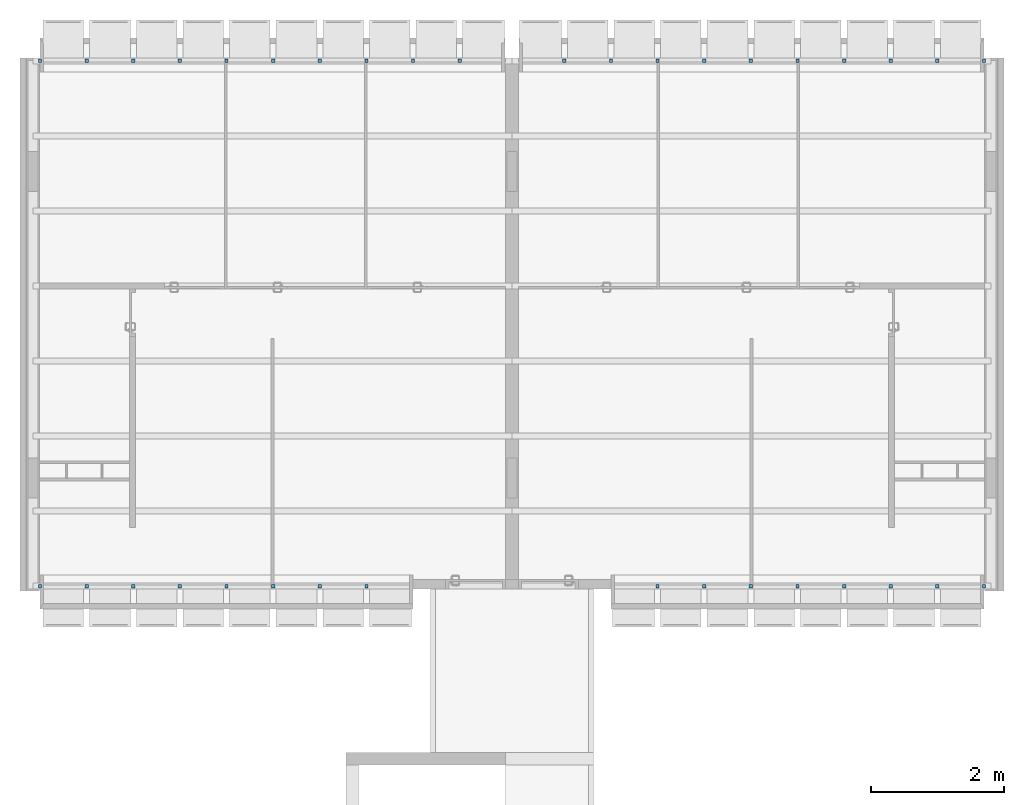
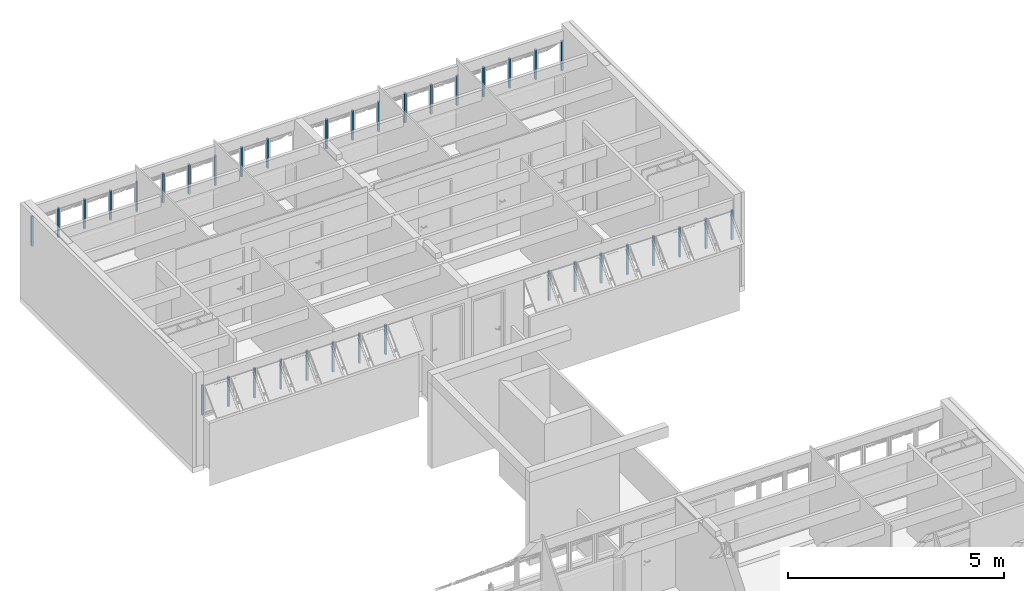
# One storey, part 3 of 40: 36 members, 4 elements without a shape of their own.
"""IFC4 building model written with IfcOpenShell, lengths in millimetres."""

from ifc_helpers import new_model, entity, si_unit, converted_unit, derived_unit, direction, frame, origin_with_axes, place, context, subcontext, project, spatial, line, indexed_curve, outline, extrude, material, type_object, element, aggregate, save


model = new_model("IFC4")

# Units and contexts
model_context = context("Model", 3, precision=0.01, world=origin_with_axes(), true_north=direction((0.0, 1.0)))
body_context = subcontext(model_context, "Body", "Model", "MODEL_VIEW")
ifc_project = project(units=[si_unit("LENGTHUNIT", "METRE", prefix="MILLI"), si_unit("AREAUNIT", "SQUARE_METRE"), si_unit("VOLUMEUNIT", "CUBIC_METRE"), converted_unit("PLANEANGLEUNIT", "DEGREE", entity("IfcPlaneAngleMeasure", 0.0174532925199), si_unit("PLANEANGLEUNIT", "RADIAN"), dimensions=[0, 0, 0, 0, 0, 0, 0]), converted_unit("TIMEUNIT", "Year", entity("IfcTimeMeasure", 31556926.0), si_unit("TIMEUNIT", "SECOND"), dimensions=[0, 0, 1, 0, 0, 0, 0]), si_unit("MASSUNIT", "GRAM", prefix="KILO"), si_unit("THERMODYNAMICTEMPERATUREUNIT", "DEGREE_CELSIUS"), si_unit("LUMINOUSINTENSITYUNIT", "LUMEN"), si_unit("ENERGYUNIT", "JOULE", prefix="MEGA"), derived_unit("THERMALCONDUCTANCEUNIT", [(si_unit("POWERUNIT", "WATT"), 1), (si_unit("LENGTHUNIT", "METRE"), -1), (si_unit("THERMODYNAMICTEMPERATUREUNIT", "KELVIN"), -1)]), derived_unit("SPECIFICHEATCAPACITYUNIT", [(si_unit("ENERGYUNIT", "JOULE"), 1), (si_unit("MASSUNIT", "GRAM", prefix="KILO"), -1), (si_unit("THERMODYNAMICTEMPERATUREUNIT", "KELVIN"), -1)]), derived_unit("MASSDENSITYUNIT", [(si_unit("MASSUNIT", "GRAM", prefix="KILO"), 1), (si_unit("VOLUMEUNIT", "CUBIC_METRE"), -1)])], contexts=[model_context])

# Site, building, storey
site_placement = place(None, origin_with_axes())
site = spatial("IfcSite", under=ifc_project, at=site_placement, Name="Local", CompositionType="ELEMENT")
building_placement = place(site_placement, origin_with_axes())
building = spatial("IfcBuilding", under=site, at=building_placement, Name="Construção", CompositionType="ELEMENT")
storey_placement = place(building_placement, frame((0.0, 0.0, 5300.0), z_axis=(0.0, 0.0, 1.0), x_axis=(1.0, 0.0, 0.0)))
storey = spatial("IfcBuildingStorey", under=building, at=storey_placement, Name="Terceiro Pavimento", CompositionType="ELEMENT", Elevation=5300.0)

# Window, members
window_type = type_object("IfcWindowType", Name="Tipo de Parede Cortina", PartitioningType="NOTDEFINED", PredefinedType="NOTDEFINED")
window_1_placement = place(storey_placement, frame((2750.0, 17910.0, 1355.00007107), z_axis=(0.0, 0.0, 1.0), x_axis=(1.0, 0.0, 0.0)))
window_1 = element("IfcWindow", 1, at=window_1_placement, inside=storey, type_object=window_type, Name="APTO11-JANELA-000", PredefinedType="NOTDEFINED")
ifc_material = material(Name="Alumínio")
member_type = type_object("IfcMemberType", Name="Montante 50 x 50", PredefinedType="MULLION")
member_1_placement = place(window_1_placement, frame((1050.0, 0.0, 0.0), z_axis=(0.0, 0.0, 1.0), x_axis=(-1.0, 0.0, 0.0)))
member_1 = element("IfcMember", 2, at=member_1_placement, type_object=member_type, material=ifc_material, Name="APTO11-PC-Est-Mnt-430", PredefinedType="MULLION", context=body_context, shape_type="SweptSolid", body=[
    extrude(outline(indexed_curve([(-25.0, 50.0), (-25.0, 0.0), (25.0, 0.0), (25.0, 50.0)], segments=[line(1, 2, 3, 4, 1)])), frame((0.0, 0.0, 0.0), z_axis=(0.0, 0.0, 1.0), x_axis=(-1.0, 0.0, 0.0)), (0.0, 0.0, 1.0), 844.999891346),
])
member_2_placement = place(window_1_placement, frame((1750.0, 0.0, 0.0), z_axis=(0.0, 0.0, 1.0), x_axis=(-1.0, 0.0, 0.0)))
member_2 = element("IfcMember", 3, at=member_2_placement, type_object=member_type, material=ifc_material, Name="APTO11-PC-Est-Mnt-485", PredefinedType="MULLION", context=body_context, shape_type="SweptSolid", body=[
    extrude(outline(indexed_curve([(-25.0, 50.0), (-25.0, 0.0), (25.0, 0.0), (25.0, 50.0)], segments=[line(1, 2, 3, 4, 1)])), frame((0.0, 0.0, 0.0), z_axis=(0.0, 0.0, 1.0), x_axis=(-1.0, 0.0, 0.0)), (0.0, 0.0, 1.0), 844.999891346),
])
member_3_placement = place(window_1_placement, frame((2450.0, 0.0, 0.0), z_axis=(0.0, 0.0, 1.0), x_axis=(-1.0, 0.0, 0.0)))
member_3 = element("IfcMember", 4, at=member_3_placement, type_object=member_type, material=ifc_material, Name="APTO11-PC-Est-Mnt-486", PredefinedType="MULLION", context=body_context, shape_type="SweptSolid", body=[
    extrude(outline(indexed_curve([(-25.0, 50.0), (-25.0, 0.0), (25.0, 0.0), (25.0, 50.0)], segments=[line(1, 2, 3, 4, 1)])), frame((0.0, 0.0, 0.0), z_axis=(0.0, 0.0, 1.0), x_axis=(-1.0, 0.0, 0.0)), (0.0, 0.0, 1.0), 844.999891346),
])
member_4_placement = place(window_1_placement, frame((-350.0, 0.0, 0.0), z_axis=(0.0, 0.0, 1.0), x_axis=(-1.0, 0.0, 0.0)))
member_4 = element("IfcMember", 5, at=member_4_placement, type_object=member_type, material=ifc_material, Name="APTO11-PC-Est-Mnt-428", PredefinedType="MULLION", context=body_context, shape_type="SweptSolid", body=[
    extrude(outline(indexed_curve([(-25.0, 50.0), (-25.0, 0.0), (25.0, 0.0), (25.0, 50.0)], segments=[line(1, 2, 3, 4, 1)])), frame((0.0, 0.0, 0.0), z_axis=(0.0, 0.0, 1.0), x_axis=(-1.0, 0.0, 0.0)), (0.0, 0.0, 1.0), 844.999891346),
])
member_5_placement = place(window_1_placement, frame((-2450.0, 0.0, 0.0), z_axis=(0.0, 0.0, 1.0), x_axis=(-1.0, 0.0, 0.0)))
member_5 = element("IfcMember", 6, at=member_5_placement, type_object=member_type, material=ifc_material, Name="APTO11-PC-Est-Mnt-560", PredefinedType="MULLION", context=body_context, shape_type="SweptSolid", body=[
    extrude(outline(indexed_curve([(-25.0, 50.0), (-25.0, 0.0), (25.0, 0.0), (25.0, 50.0)], segments=[line(1, 2, 3, 4, 1)])), frame((0.0, 0.0, 0.0), z_axis=(0.0, 0.0, 1.0), x_axis=(-1.0, 0.0, 0.0)), (0.0, 0.0, 1.0), 844.999891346),
])
member_6_placement = place(window_1_placement, frame((350.0, 0.0, 0.0), z_axis=(0.0, 0.0, 1.0), x_axis=(-1.0, 0.0, 0.0)))
member_6 = element("IfcMember", 7, at=member_6_placement, type_object=member_type, material=ifc_material, Name="APTO11-PC-Est-Mnt-429", PredefinedType="MULLION", context=body_context, shape_type="SweptSolid", body=[
    extrude(outline(indexed_curve([(-25.0, 50.0), (-25.0, 0.0), (25.0, 0.0), (25.0, 50.0)], segments=[line(1, 2, 3, 4, 1)])), frame((0.0, 0.0, 0.0), z_axis=(0.0, 0.0, 1.0), x_axis=(-1.0, 0.0, 0.0)), (0.0, 0.0, 1.0), 844.999891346),
])
member_7_placement = place(window_1_placement, frame((-1050.0, 0.0, 0.0), z_axis=(0.0, 0.0, 1.0), x_axis=(-1.0, 0.0, 0.0)))
member_7 = element("IfcMember", 8, at=member_7_placement, type_object=member_type, material=ifc_material, Name="APTO11-PC-Est-Mnt-427", PredefinedType="MULLION", context=body_context, shape_type="SweptSolid", body=[
    extrude(outline(indexed_curve([(-25.0, 50.0), (-25.0, 0.0), (25.0, 0.0), (25.0, 50.0)], segments=[line(1, 2, 3, 4, 1)])), frame((0.0, 0.0, 0.0), z_axis=(0.0, 0.0, 1.0), x_axis=(-1.0, 0.0, 0.0)), (0.0, 0.0, 1.0), 844.999891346),
])
member_8_placement = place(window_1_placement, frame((-1750.0, 0.0, 0.0), z_axis=(0.0, 0.0, 1.0), x_axis=(-1.0, 0.0, 0.0)))
member_8 = element("IfcMember", 9, at=member_8_placement, type_object=member_type, material=ifc_material, Name="APTO11-PC-Est-Mnt-426", PredefinedType="MULLION", context=body_context, shape_type="SweptSolid", body=[
    extrude(outline(indexed_curve([(-25.0, 50.0), (-25.0, 0.0), (25.0, 0.0), (25.0, 50.0)], segments=[line(1, 2, 3, 4, 1)])), frame((0.0, 0.0, 0.0), z_axis=(0.0, 0.0, 1.0), x_axis=(-1.0, 0.0, 0.0)), (0.0, 0.0, 1.0), 844.999891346),
])
aggregate(window_1, [member_1, member_2, member_3, member_4, member_5, member_6, member_7, member_8])

window_2_placement = place(storey_placement, frame((6250.0, 25844.9790225, 1355.02054151), z_axis=(0.0, 0.0, 1.0), x_axis=(1.0, 0.0, 0.0)))
window_2 = element("IfcWindow", 10, at=window_2_placement, inside=storey, type_object=window_type, Name="APTO11-JANELA-001", PredefinedType="NOTDEFINED")
member_9_placement = place(window_2_placement, frame((-2450.0, 0.0, 0.0), z_axis=(0.0, 0.0, 1.0), x_axis=(-1.0, 0.0, 0.0)))
member_9 = element("IfcMember", 11, at=member_9_placement, type_object=member_type, material=ifc_material, Name="APTO11-PC-Est-Mnt-430", PredefinedType="MULLION", context=body_context, shape_type="SweptSolid", body=[
    extrude(outline(indexed_curve([(-25.0, -50.0), (25.0, -50.0), (25.0, 0.0), (-25.0, 0.0)], segments=[line(1, 2, 3, 4, 1)])), frame((0.0, 0.0, 0.0), z_axis=(0.0, 0.0, 1.0), x_axis=(-1.0, 0.0, 0.0)), (0.0, 0.0, 1.0), 844.999928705),
])
member_10_placement = place(window_2_placement, frame((-1750.0, 0.0, 0.0), z_axis=(0.0, 0.0, 1.0), x_axis=(-1.0, 0.0, 0.0)))
member_10 = element("IfcMember", 12, at=member_10_placement, type_object=member_type, material=ifc_material, Name="APTO11-PC-Est-Mnt-485", PredefinedType="MULLION", context=body_context, shape_type="SweptSolid", body=[
    extrude(outline(indexed_curve([(-25.0, -50.0), (25.0, -50.0), (25.0, 0.0), (-25.0, 0.0)], segments=[line(1, 2, 3, 4, 1)])), frame((0.0, 0.0, 0.0), z_axis=(0.0, 0.0, 1.0), x_axis=(-1.0, 0.0, 0.0)), (0.0, 0.0, 1.0), 844.999928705),
])
member_11_placement = place(window_2_placement, frame((-1050.0, 0.0, 0.0), z_axis=(0.0, 0.0, 1.0), x_axis=(-1.0, 0.0, 0.0)))
member_11 = element("IfcMember", 13, at=member_11_placement, type_object=member_type, material=ifc_material, Name="APTO11-PC-Est-Mnt-486", PredefinedType="MULLION", context=body_context, shape_type="SweptSolid", body=[
    extrude(outline(indexed_curve([(-25.0, -50.0), (25.0, -50.0), (25.0, 0.0), (-25.0, 0.0)], segments=[line(1, 2, 3, 4, 1)])), frame((0.0, 0.0, 0.0), z_axis=(0.0, 0.0, 1.0), x_axis=(-1.0, 0.0, 0.0)), (0.0, 0.0, 1.0), 844.999928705),
])
member_12_placement = place(window_2_placement, frame((-3850.0, 0.0, 0.0), z_axis=(0.0, 0.0, 1.0), x_axis=(-1.0, 0.0, 0.0)))
member_12 = element("IfcMember", 14, at=member_12_placement, type_object=member_type, material=ifc_material, Name="APTO11-PC-Est-Mnt-428", PredefinedType="MULLION", context=body_context, shape_type="SweptSolid", body=[
    extrude(outline(indexed_curve([(-25.0, -50.0), (25.0, -50.0), (25.0, 0.0), (-25.0, 0.0)], segments=[line(1, 2, 3, 4, 1)])), frame((0.0, 0.0, 0.0), z_axis=(0.0, 0.0, 1.0), x_axis=(-1.0, 0.0, 0.0)), (0.0, 0.0, 1.0), 844.999928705),
])
member_13_placement = place(window_2_placement, frame((-350.0, 0.0, 0.0), z_axis=(0.0, 0.0, 1.0), x_axis=(-1.0, 0.0, 0.0)))
member_13 = element("IfcMember", 15, at=member_13_placement, type_object=member_type, material=ifc_material, Name="APTO11-PC-Est-Mnt-487", PredefinedType="MULLION", context=body_context, shape_type="SweptSolid", body=[
    extrude(outline(indexed_curve([(-25.0, -50.0), (25.0, -50.0), (25.0, 0.0), (-25.0, 0.0)], segments=[line(1, 2, 3, 4, 1)])), frame((0.0, 0.0, 0.0), z_axis=(0.0, 0.0, 1.0), x_axis=(-1.0, 0.0, 0.0)), (0.0, 0.0, 1.0), 844.999928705),
])
member_14_placement = place(window_2_placement, frame((350.0, 0.0, 0.0), z_axis=(0.0, 0.0, 1.0), x_axis=(-1.0, 0.0, 0.0)))
member_14 = element("IfcMember", 16, at=member_14_placement, type_object=member_type, material=ifc_material, Name="APTO11-PC-Est-Mnt-488", PredefinedType="MULLION", context=body_context, shape_type="SweptSolid", body=[
    extrude(outline(indexed_curve([(-25.0, -50.0), (25.0, -50.0), (25.0, 0.0), (-25.0, 0.0)], segments=[line(1, 2, 3, 4, 1)])), frame((0.0, 0.0, 0.0), z_axis=(0.0, 0.0, 1.0), x_axis=(-1.0, 0.0, 0.0)), (0.0, 0.0, 1.0), 844.999928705),
])
member_15_placement = place(window_2_placement, frame((-5950.0, 0.0, 0.0), z_axis=(0.0, 0.0, 1.0), x_axis=(-1.0, 0.0, 0.0)))
member_15 = element("IfcMember", 17, at=member_15_placement, type_object=member_type, material=ifc_material, Name="APTO11-PC-Est-Mnt-522", PredefinedType="MULLION", context=body_context, shape_type="SweptSolid", body=[
    extrude(outline(indexed_curve([(-25.0, -50.0), (25.0, -50.0), (25.0, 0.0), (-25.0, 0.0)], segments=[line(1, 2, 3, 4, 1)])), frame((0.0, 0.0, 0.0), z_axis=(0.0, 0.0, 1.0), x_axis=(-1.0, 0.0, 0.0)), (0.0, 0.0, 1.0), 844.999928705),
])
member_16_placement = place(window_2_placement, frame((-3150.0, 0.0, 0.0), z_axis=(0.0, 0.0, 1.0), x_axis=(-1.0, 0.0, 0.0)))
member_16 = element("IfcMember", 18, at=member_16_placement, type_object=member_type, material=ifc_material, Name="APTO11-PC-Est-Mnt-429", PredefinedType="MULLION", context=body_context, shape_type="SweptSolid", body=[
    extrude(outline(indexed_curve([(-25.0, -50.0), (25.0, -50.0), (25.0, 0.0), (-25.0, 0.0)], segments=[line(1, 2, 3, 4, 1)])), frame((0.0, 0.0, 0.0), z_axis=(0.0, 0.0, 1.0), x_axis=(-1.0, 0.0, 0.0)), (0.0, 0.0, 1.0), 844.999928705),
])
member_17_placement = place(window_2_placement, frame((-4550.0, 0.0, 0.0), z_axis=(0.0, 0.0, 1.0), x_axis=(-1.0, 0.0, 0.0)))
member_17 = element("IfcMember", 19, at=member_17_placement, type_object=member_type, material=ifc_material, Name="APTO11-PC-Est-Mnt-427", PredefinedType="MULLION", context=body_context, shape_type="SweptSolid", body=[
    extrude(outline(indexed_curve([(-25.0, -50.0), (25.0, -50.0), (25.0, 0.0), (-25.0, 0.0)], segments=[line(1, 2, 3, 4, 1)])), frame((0.0, 0.0, 0.0), z_axis=(0.0, 0.0, 1.0), x_axis=(-1.0, 0.0, 0.0)), (0.0, 0.0, 1.0), 844.999928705),
])
member_18_placement = place(window_2_placement, frame((-5250.0, 0.0, 0.0), z_axis=(0.0, 0.0, 1.0), x_axis=(-1.0, 0.0, 0.0)))
member_18 = element("IfcMember", 20, at=member_18_placement, type_object=member_type, material=ifc_material, Name="APTO11-PC-Est-Mnt-426", PredefinedType="MULLION", context=body_context, shape_type="SweptSolid", body=[
    extrude(outline(indexed_curve([(-25.0, -50.0), (25.0, -50.0), (25.0, 0.0), (-25.0, 0.0)], segments=[line(1, 2, 3, 4, 1)])), frame((0.0, 0.0, 0.0), z_axis=(0.0, 0.0, 1.0), x_axis=(-1.0, 0.0, 0.0)), (0.0, 0.0, 1.0), 844.999928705),
])
aggregate(window_2, [member_9, member_10, member_11, member_12, member_13, member_14, member_15, member_16, member_17, member_18])

window_3_placement = place(storey_placement, frame((12020.0, 17910.0, 1355.00007107), z_axis=(0.0, 0.0, 1.0), x_axis=(1.0, 0.0, 0.0)))
window_3 = element("IfcWindow", 21, at=window_3_placement, inside=storey, type_object=window_type, Name="APTO12-JANELA-000", PredefinedType="NOTDEFINED")
member_19_placement = place(window_3_placement, frame((-1050.0, 0.0, 0.0), z_axis=(0.0, 0.0, 1.0), x_axis=(1.0, 0.0, 0.0)))
member_19 = element("IfcMember", 22, at=member_19_placement, type_object=member_type, material=ifc_material, Name="APTO12-PC-Est-Mnt-430", PredefinedType="MULLION", context=body_context, shape_type="SweptSolid", body=[
    extrude(outline(indexed_curve([(25.0, 50.0), (-25.0, 50.0), (-25.0, 0.0), (25.0, 0.0)], segments=[line(1, 2, 3, 4, 1)])), origin_with_axes(), (0.0, 0.0, 1.0), 844.999928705),
])
member_20_placement = place(window_3_placement, frame((-1750.0, 0.0, 0.0), z_axis=(0.0, 0.0, 1.0), x_axis=(1.0, 0.0, 0.0)))
member_20 = element("IfcMember", 23, at=member_20_placement, type_object=member_type, material=ifc_material, Name="APTO12-PC-Est-Mnt-485", PredefinedType="MULLION", context=body_context, shape_type="SweptSolid", body=[
    extrude(outline(indexed_curve([(25.0, 50.0), (-25.0, 50.0), (-25.0, 0.0), (25.0, 0.0)], segments=[line(1, 2, 3, 4, 1)])), origin_with_axes(), (0.0, 0.0, 1.0), 844.999928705),
])
member_21_placement = place(window_3_placement, frame((-2450.0, 0.0, 0.0), z_axis=(0.0, 0.0, 1.0), x_axis=(1.0, 0.0, 0.0)))
member_21 = element("IfcMember", 24, at=member_21_placement, type_object=member_type, material=ifc_material, Name="APTO12-PC-Est-Mnt-486", PredefinedType="MULLION", context=body_context, shape_type="SweptSolid", body=[
    extrude(outline(indexed_curve([(25.0, 50.0), (-25.0, 50.0), (-25.0, 0.0), (25.0, 0.0)], segments=[line(1, 2, 3, 4, 1)])), origin_with_axes(), (0.0, 0.0, 1.0), 844.999928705),
])
member_22_placement = place(window_3_placement, frame((350.0, 0.0, 0.0), z_axis=(0.0, 0.0, 1.0), x_axis=(1.0, 0.0, 0.0)))
member_22 = element("IfcMember", 25, at=member_22_placement, type_object=member_type, material=ifc_material, Name="APTO12-PC-Est-Mnt-428", PredefinedType="MULLION", context=body_context, shape_type="SweptSolid", body=[
    extrude(outline(indexed_curve([(25.0, 50.0), (-25.0, 50.0), (-25.0, 0.0), (25.0, 0.0)], segments=[line(1, 2, 3, 4, 1)])), origin_with_axes(), (0.0, 0.0, 1.0), 844.999928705),
])
member_23_placement = place(window_3_placement, frame((2450.0, 0.0, 0.0), z_axis=(0.0, 0.0, 1.0), x_axis=(1.0, 0.0, 0.0)))
member_23 = element("IfcMember", 26, at=member_23_placement, type_object=member_type, material=ifc_material, Name="APTO12-PC-Est-Mnt-560", PredefinedType="MULLION", context=body_context, shape_type="SweptSolid", body=[
    extrude(outline(indexed_curve([(25.0, 50.0), (-25.0, 50.0), (-25.0, 0.0), (25.0, 0.0)], segments=[line(1, 2, 3, 4, 1)])), origin_with_axes(), (0.0, 0.0, 1.0), 844.999928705),
])
member_24_placement = place(window_3_placement, frame((-350.0, 0.0, 0.0), z_axis=(0.0, 0.0, 1.0), x_axis=(1.0, 0.0, 0.0)))
member_24 = element("IfcMember", 27, at=member_24_placement, type_object=member_type, material=ifc_material, Name="APTO12-PC-Est-Mnt-429", PredefinedType="MULLION", context=body_context, shape_type="SweptSolid", body=[
    extrude(outline(indexed_curve([(25.0, 50.0), (-25.0, 50.0), (-25.0, 0.0), (25.0, 0.0)], segments=[line(1, 2, 3, 4, 1)])), origin_with_axes(), (0.0, 0.0, 1.0), 844.999928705),
])
member_25_placement = place(window_3_placement, frame((1050.0, 0.0, 0.0), z_axis=(0.0, 0.0, 1.0), x_axis=(1.0, 0.0, 0.0)))
member_25 = element("IfcMember", 28, at=member_25_placement, type_object=member_type, material=ifc_material, Name="APTO12-PC-Est-Mnt-427", PredefinedType="MULLION", context=body_context, shape_type="SweptSolid", body=[
    extrude(outline(indexed_curve([(25.0, 50.0), (-25.0, 50.0), (-25.0, 0.0), (25.0, 0.0)], segments=[line(1, 2, 3, 4, 1)])), origin_with_axes(), (0.0, 0.0, 1.0), 844.999928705),
])
member_26_placement = place(window_3_placement, frame((1750.0, 0.0, 0.0), z_axis=(0.0, 0.0, 1.0), x_axis=(1.0, 0.0, 0.0)))
member_26 = element("IfcMember", 29, at=member_26_placement, type_object=member_type, material=ifc_material, Name="APTO12-PC-Est-Mnt-426", PredefinedType="MULLION", context=body_context, shape_type="SweptSolid", body=[
    extrude(outline(indexed_curve([(25.0, 50.0), (-25.0, 50.0), (-25.0, 0.0), (25.0, 0.0)], segments=[line(1, 2, 3, 4, 1)])), origin_with_axes(), (0.0, 0.0, 1.0), 844.999928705),
])
aggregate(window_3, [member_19, member_20, member_21, member_22, member_23, member_24, member_25, member_26])

window_4_placement = place(storey_placement, frame((8520.0, 25844.9790225, 1355.02054151), z_axis=(0.0, 0.0, 1.0), x_axis=(1.0, 0.0, 0.0)))
window_4 = element("IfcWindow", 30, at=window_4_placement, inside=storey, type_object=window_type, Name="APTO12-JANELA-001", PredefinedType="NOTDEFINED")
member_27_placement = place(window_4_placement, frame((2450.0, 0.0, 0.0), z_axis=(0.0, 0.0, 1.0), x_axis=(1.0, 0.0, 0.0)))
member_27 = element("IfcMember", 31, at=member_27_placement, type_object=member_type, material=ifc_material, Name="APTO12-PC-Est-Mnt-430", PredefinedType="MULLION", context=body_context, shape_type="SweptSolid", body=[
    extrude(outline(indexed_curve([(25.0, -50.0), (25.0, 0.0), (-25.0, 0.0), (-25.0, -50.0)], segments=[line(1, 2, 3, 4, 1)])), origin_with_axes(), (0.0, 0.0, 1.0), 844.999891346),
])
member_28_placement = place(window_4_placement, frame((1750.0, 0.0, 0.0), z_axis=(0.0, 0.0, 1.0), x_axis=(1.0, 0.0, 0.0)))
member_28 = element("IfcMember", 32, at=member_28_placement, type_object=member_type, material=ifc_material, Name="APTO12-PC-Est-Mnt-485", PredefinedType="MULLION", context=body_context, shape_type="SweptSolid", body=[
    extrude(outline(indexed_curve([(25.0, -50.0), (25.0, 0.0), (-25.0, 0.0), (-25.0, -50.0)], segments=[line(1, 2, 3, 4, 1)])), origin_with_axes(), (0.0, 0.0, 1.0), 844.999891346),
])
member_29_placement = place(window_4_placement, frame((1050.0, 0.0, 0.0), z_axis=(0.0, 0.0, 1.0), x_axis=(1.0, 0.0, 0.0)))
member_29 = element("IfcMember", 33, at=member_29_placement, type_object=member_type, material=ifc_material, Name="APTO12-PC-Est-Mnt-486", PredefinedType="MULLION", context=body_context, shape_type="SweptSolid", body=[
    extrude(outline(indexed_curve([(25.0, -50.0), (25.0, 0.0), (-25.0, 0.0), (-25.0, -50.0)], segments=[line(1, 2, 3, 4, 1)])), origin_with_axes(), (0.0, 0.0, 1.0), 844.999891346),
])
member_30_placement = place(window_4_placement, frame((3850.0, 0.0, 0.0), z_axis=(0.0, 0.0, 1.0), x_axis=(1.0, 0.0, 0.0)))
member_30 = element("IfcMember", 34, at=member_30_placement, type_object=member_type, material=ifc_material, Name="APTO12-PC-Est-Mnt-428", PredefinedType="MULLION", context=body_context, shape_type="SweptSolid", body=[
    extrude(outline(indexed_curve([(25.0, -50.0), (25.0, 0.0), (-25.0, 0.0), (-25.0, -50.0)], segments=[line(1, 2, 3, 4, 1)])), origin_with_axes(), (0.0, 0.0, 1.0), 844.999891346),
])
member_31_placement = place(window_4_placement, frame((350.0, 0.0, 0.0), z_axis=(0.0, 0.0, 1.0), x_axis=(1.0, 0.0, 0.0)))
member_31 = element("IfcMember", 35, at=member_31_placement, type_object=member_type, material=ifc_material, Name="APTO12-PC-Est-Mnt-487", PredefinedType="MULLION", context=body_context, shape_type="SweptSolid", body=[
    extrude(outline(indexed_curve([(25.0, -50.0), (25.0, 0.0), (-25.0, 0.0), (-25.0, -50.0)], segments=[line(1, 2, 3, 4, 1)])), origin_with_axes(), (0.0, 0.0, 1.0), 844.999891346),
])
member_32_placement = place(window_4_placement, frame((-350.0, 0.0, 0.0), z_axis=(0.0, 0.0, 1.0), x_axis=(1.0, 0.0, 0.0)))
member_32 = element("IfcMember", 36, at=member_32_placement, type_object=member_type, material=ifc_material, Name="APTO12-PC-Est-Mnt-488", PredefinedType="MULLION", context=body_context, shape_type="SweptSolid", body=[
    extrude(outline(indexed_curve([(25.0, -50.0), (25.0, 0.0), (-25.0, 0.0), (-25.0, -50.0)], segments=[line(1, 2, 3, 4, 1)])), origin_with_axes(), (0.0, 0.0, 1.0), 844.999891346),
])
member_33_placement = place(window_4_placement, frame((5950.0, 0.0, 0.0), z_axis=(0.0, 0.0, 1.0), x_axis=(1.0, 0.0, 0.0)))
member_33 = element("IfcMember", 37, at=member_33_placement, type_object=member_type, material=ifc_material, Name="APTO12-PC-Est-Mnt-522", PredefinedType="MULLION", context=body_context, shape_type="SweptSolid", body=[
    extrude(outline(indexed_curve([(25.0, -50.0), (25.0, 0.0), (-25.0, 0.0), (-25.0, -50.0)], segments=[line(1, 2, 3, 4, 1)])), origin_with_axes(), (0.0, 0.0, 1.0), 844.999891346),
])
member_34_placement = place(window_4_placement, frame((3150.0, 0.0, 0.0), z_axis=(0.0, 0.0, 1.0), x_axis=(1.0, 0.0, 0.0)))
member_34 = element("IfcMember", 38, at=member_34_placement, type_object=member_type, material=ifc_material, Name="APTO12-PC-Est-Mnt-429", PredefinedType="MULLION", context=body_context, shape_type="SweptSolid", body=[
    extrude(outline(indexed_curve([(25.0, -50.0), (25.0, 0.0), (-25.0, 0.0), (-25.0, -50.0)], segments=[line(1, 2, 3, 4, 1)])), origin_with_axes(), (0.0, 0.0, 1.0), 844.999891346),
])
member_35_placement = place(window_4_placement, frame((4550.0, 0.0, 0.0), z_axis=(0.0, 0.0, 1.0), x_axis=(1.0, 0.0, 0.0)))
member_35 = element("IfcMember", 39, at=member_35_placement, type_object=member_type, material=ifc_material, Name="APTO12-PC-Est-Mnt-427", PredefinedType="MULLION", context=body_context, shape_type="SweptSolid", body=[
    extrude(outline(indexed_curve([(25.0, -50.0), (25.0, 0.0), (-25.0, 0.0), (-25.0, -50.0)], segments=[line(1, 2, 3, 4, 1)])), origin_with_axes(), (0.0, 0.0, 1.0), 844.999891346),
])
member_36_placement = place(window_4_placement, frame((5250.0, 0.0, 0.0), z_axis=(0.0, 0.0, 1.0), x_axis=(1.0, 0.0, 0.0)))
member_36 = element("IfcMember", 40, at=member_36_placement, type_object=member_type, material=ifc_material, Name="APTO12-PC-Est-Mnt-426", PredefinedType="MULLION", context=body_context, shape_type="SweptSolid", body=[
    extrude(outline(indexed_curve([(25.0, -50.0), (25.0, 0.0), (-25.0, 0.0), (-25.0, -50.0)], segments=[line(1, 2, 3, 4, 1)])), origin_with_axes(), (0.0, 0.0, 1.0), 844.999891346),
])
aggregate(window_4, [member_27, member_28, member_29, member_30, member_31, member_32, member_33, member_34, member_35, member_36])

save(model, "model.ifc")
